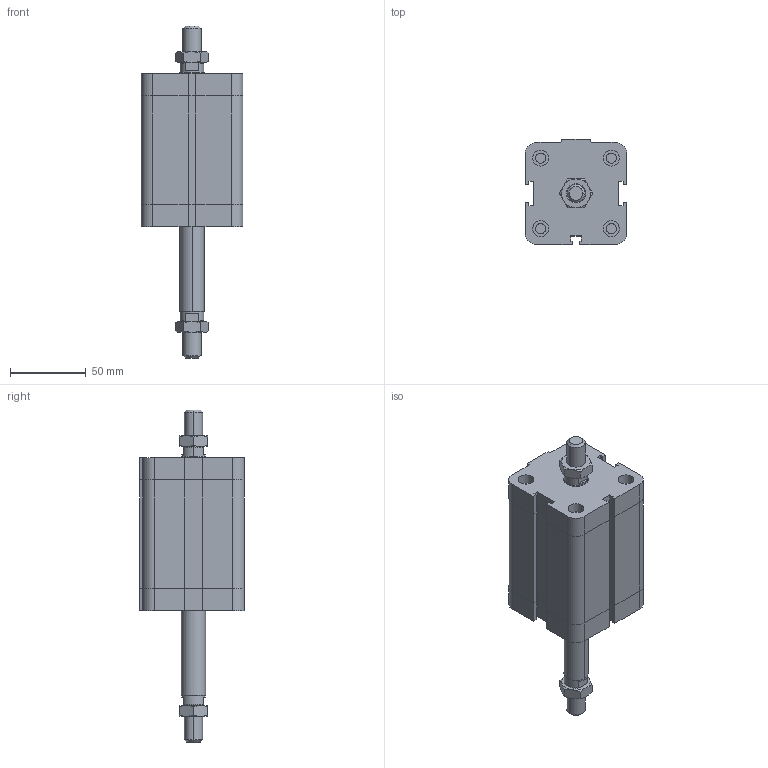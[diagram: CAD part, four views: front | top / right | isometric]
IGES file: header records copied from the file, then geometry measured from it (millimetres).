
Global section: file name: No Iges File Name specified; native system: Autodesk Inventor 2009; preprocessor: AutoDesk Inventor Iges Exporter R2009; author: maffial1; date: 20090420.200723; units: millimetre
Bounding box: 67 x 69 x 218.5 mm (x, y, z)
Volume: 443642.3 mm3; surface area: 61609.6 mm2
Topology: 4 solids, 4 shells, 260 faces, 574 edges, 342 vertices
Faces by surface type: plane 129, bspline 51, cone 38, cylinder 22, revolution 20
